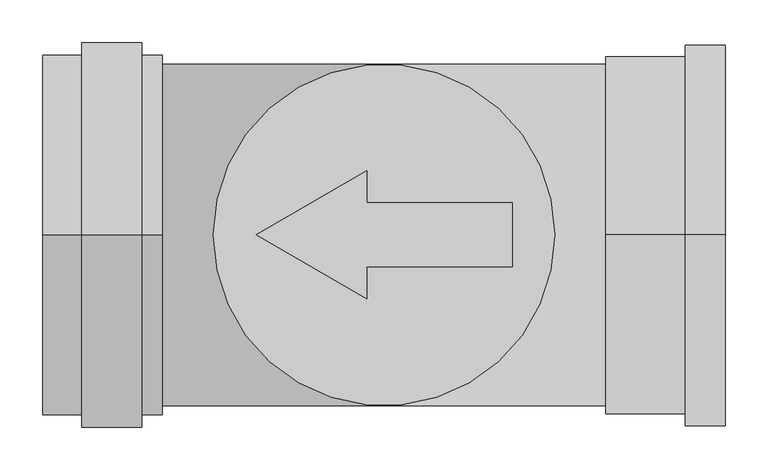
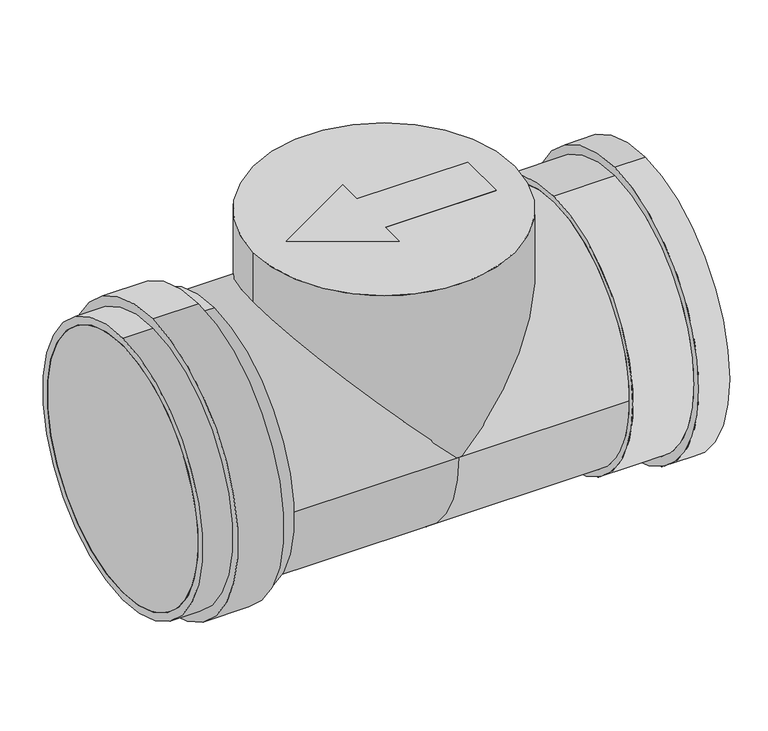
"""IFC4 building model written with IfcOpenShell, lengths in millimetres: pipe fitting geometry, NLRS_52_PIF_UN_SN4 SN8 ontstoppingsstuk terugslagklep 1MV_Dyka : Roodbruin SN4 (Grijze buis)."""

from ifc_helpers import new_model, si_unit, point, frame, origin, origin_with_axes, origin_2d, place, context, project, spatial, polyline, circle_curve, trimmed, segment, composite_curve, outline, extrude, source, transform, mapped, element, save
from ifc_brep_helpers import plane_surface, cylinder_surface, revolved_surface, advanced_brep


def pipe_fitting_edf8ec87(model_context):
    return source(origin(), model_context, "Body", "SolidModel", [
        advanced_brep(
        [(-400.0, 0.0, 211.7), (-400.0, 0.0, -211.7), (-400.0, 0.0, 200.0), (-400.0, 0.0, -200.0), (-260.0, 0.0, 211.7), (-260.0, 0.0, -211.7), (-260.0, 0.0, 200.0), (-260.0, 0.0, -200.0), (-354.0, 0.0, 200.0), (-284.0, 0.0, 200.0), (-284.0, 0.0, -200.0), (-354.0, 0.0, -200.0), (-354.0, 0.0, 211.7), (-354.0, 0.0, -211.7), (-284.0, 0.0, -211.7), (-284.0, 0.0, 211.7), (-354.0, 0.0, 226.5), (-354.0, 0.0, -226.5), (-284.0, 0.0, 226.5), (-284.0, 0.0, -226.5)],
        [
            (0, 1, circle_curve(frame((-400.0, 0.0, 0.0), z_axis=(-1.0, 0.0, 0.0), x_axis=(0.0, 0.0, -1.0)), 211.7)),
            (1, 0, circle_curve(frame((-400.0, 0.0, 0.0), z_axis=(-1.0, 0.0, 0.0), x_axis=(0.0, 0.0, -1.0)), 211.7)),
            (2, 3, circle_curve(frame((-400.0, 0.0, 0.0), z_axis=(1.0, 0.0, 0.0), x_axis=(0.0, 0.0, -1.0)), 200.0)),
            (3, 2, circle_curve(frame((-400.0, 0.0, 0.0), z_axis=(1.0, 0.0, 0.0), x_axis=(0.0, 0.0, -1.0)), 200.0)),
            (4, 5, circle_curve(frame((-260.0, 0.0, 0.0), z_axis=(1.0, 0.0, 0.0), x_axis=(0.0, 0.0, -1.0)), 211.7)),
            (5, 4, circle_curve(frame((-260.0, 0.0, 0.0), z_axis=(1.0, 0.0, 0.0), x_axis=(0.0, 0.0, -1.0)), 211.7)),
            (6, 7, circle_curve(frame((-260.0, 0.0, 0.0), z_axis=(-1.0, 0.0, 0.0), x_axis=(0.0, 0.0, -1.0)), 200.0)),
            (7, 6, circle_curve(frame((-260.0, 0.0, 0.0), z_axis=(-1.0, 0.0, 0.0), x_axis=(0.0, 0.0, -1.0)), 200.0)),
            (2, 8),
            (8, 9),
            (9, 6),
            (7, 10),
            (10, 11),
            (11, 3),
            (0, 12),
            (12, 13, circle_curve(frame((-354.0, 0.0, 0.0), z_axis=(-1.0, 0.0, 0.0), x_axis=(0.0, 0.0, -1.0)), 211.7)),
            (13, 1),
            (5, 14),
            (14, 15, circle_curve(frame((-284.0, 0.0, 0.0), z_axis=(1.0, 0.0, 0.0), x_axis=(0.0, 0.0, -1.0)), 211.7)),
            (15, 4),
            (13, 12, circle_curve(frame((-354.0, 0.0, 0.0), z_axis=(-1.0, 0.0, 0.0), x_axis=(0.0, 0.0, -1.0)), 211.7)),
            (15, 14, circle_curve(frame((-284.0, 0.0, 0.0), z_axis=(1.0, 0.0, 0.0), x_axis=(0.0, 0.0, -1.0)), 211.7)),
            (16, 17, circle_curve(frame((-354.0, 0.0, 0.0), z_axis=(-1.0, 0.0, 0.0), x_axis=(0.0, 0.0, -1.0)), 226.5)),
            (17, 16, circle_curve(frame((-354.0, 0.0, 0.0), z_axis=(-1.0, 0.0, 0.0), x_axis=(0.0, 0.0, -1.0)), 226.5)),
            (16, 18),
            (18, 19, circle_curve(frame((-284.0, 0.0, 0.0), z_axis=(-1.0, 0.0, 0.0), x_axis=(0.0, 0.0, -1.0)), 226.5)),
            (19, 17),
            (19, 18, circle_curve(frame((-284.0, 0.0, 0.0), z_axis=(-1.0, 0.0, 0.0), x_axis=(0.0, 0.0, -1.0)), 226.5)),
        ],
        [
            plane_surface(frame((-400.0, 0.0, -200.0), z_axis=(-1.0, 0.0, 0.0), x_axis=(0.0, 1.0, 0.0))),
            plane_surface(frame((-260.0, 0.0, -200.0), z_axis=(1.0, 0.0, 0.0), x_axis=(0.0, -1.0, 0.0))),
            revolved_surface(polyline([(-260.0, 0.0, -200.0), (-400.0, 0.0, -200.0)]), (-260.0, 0.0, 0.0), (1.0, 0.0, 0.0)),
            cylinder_surface(frame((-400.0, 0.0, 0.0), z_axis=(-1.0, 0.0, 0.0), x_axis=(0.0, 0.0, -1.0)), 211.7),
            plane_surface(frame((-354.0, 0.0, -200.0), z_axis=(-1.0, 0.0, 0.0), x_axis=(0.0, 1.0, 0.0))),
            cylinder_surface(frame((-400.0, 0.0, 0.0), z_axis=(-1.0, 0.0, 0.0), x_axis=(0.0, 0.0, -1.0)), 226.5),
            plane_surface(frame((-284.0, 0.0, -200.0), z_axis=(1.0, 0.0, 0.0), x_axis=(0.0, -1.0, 0.0))),
        ],
        [
            (0, [[1, 2], [3, 4]]),
            (1, [[5, 6], [7, 8]]),
            (2, [[-3, 9, 10, 11, -8, 12, 13, 14]]),
            (2, [[-4, -14, -13, -12, -7, -11, -10, -9]]),
            (3, [[-1, 15, 16, 17]]),
            (3, [[-6, 18, 19, 20]]),
            (3, [[-2, -17, 21, -15]]),
            (3, [[-5, -20, 22, -18]]),
            (4, [[23, 24], [-16, -21]]),
            (5, [[-23, 25, 26, 27]]),
            (5, [[-24, -27, 28, -25]]),
            (6, [[-28, -26], [-19, -22]]),
        ],
    ),
        advanced_brep(
        [(400.0, 0.0, 224.1412698), (400.0, 0.0, -222.8587302), (400.0, 0.0, 200.6412698), (400.0, 0.0, -199.3587302), (353.0, 0.0, 200.6412698), (353.0, 0.0, -199.3587302), (353.0, 0.0, 224.1412698), (353.0, 0.0, -222.8587302), (260.0, 0.0, 210.4412698), (260.0, 0.0, -209.1587302), (260.0, 0.0, 200.6412698), (260.0, 0.0, -199.3587302), (353.0, 0.0, -209.1587302), (353.0, 0.0, 210.4412698)],
        [
            (0, 1, circle_curve(frame((400.0, 0.0, 0.6412698), z_axis=(1.0, 0.0, 0.0), x_axis=(0.0, 0.0, -1.0)), 223.5)),
            (1, 0, circle_curve(frame((400.0, 0.0, 0.6412698), z_axis=(1.0, 0.0, 0.0), x_axis=(0.0, 0.0, -1.0)), 223.5)),
            (2, 3, circle_curve(frame((400.0, 0.0, 0.6412698), z_axis=(-1.0, 0.0, 0.0), x_axis=(0.0, 0.0, -1.0)), 200.0)),
            (3, 2, circle_curve(frame((400.0, 0.0, 0.6412698), z_axis=(-1.0, 0.0, 0.0), x_axis=(0.0, 0.0, -1.0)), 200.0)),
            (2, 4),
            (4, 5, circle_curve(frame((353.0, 0.0, 0.6412698), z_axis=(-1.0, 0.0, 0.0), x_axis=(0.0, 0.0, -1.0)), 200.0)),
            (5, 3),
            (5, 4, circle_curve(frame((353.0, 0.0, 0.6412698), z_axis=(-1.0, 0.0, 0.0), x_axis=(0.0, 0.0, -1.0)), 200.0)),
            (0, 6),
            (6, 7, circle_curve(frame((353.0, 0.0, 0.6412698), z_axis=(1.0, 0.0, 0.0), x_axis=(0.0, 0.0, -1.0)), 223.5)),
            (7, 1),
            (7, 6, circle_curve(frame((353.0, 0.0, 0.6412698), z_axis=(1.0, 0.0, 0.0), x_axis=(0.0, 0.0, -1.0)), 223.5)),
            (8, 9, circle_curve(frame((260.0, 0.0, 0.6412698), z_axis=(-1.0, 0.0, 0.0), x_axis=(0.0, 0.0, -1.0)), 209.8)),
            (9, 8, circle_curve(frame((260.0, 0.0, 0.6412698), z_axis=(-1.0, 0.0, 0.0), x_axis=(0.0, 0.0, -1.0)), 209.8)),
            (10, 11, circle_curve(frame((260.0, 0.0, 0.6412698), z_axis=(1.0, 0.0, 0.0), x_axis=(0.0, 0.0, -1.0)), 200.0)),
            (11, 10, circle_curve(frame((260.0, 0.0, 0.6412698), z_axis=(1.0, 0.0, 0.0), x_axis=(0.0, 0.0, -1.0)), 200.0)),
            (11, 5),
            (4, 10),
            (9, 12),
            (12, 13, circle_curve(frame((353.0, 0.0, 0.6412698), z_axis=(-1.0, 0.0, 0.0), x_axis=(0.0, 0.0, -1.0)), 209.8)),
            (13, 8),
            (13, 12, circle_curve(frame((353.0, 0.0, 0.6412698), z_axis=(-1.0, 0.0, 0.0), x_axis=(0.0, 0.0, -1.0)), 209.8)),
        ],
        [
            plane_surface(frame((400.0, 0.0, -199.3587302), z_axis=(1.0, 0.0, 0.0), x_axis=(0.0, -1.0, 0.0))),
            revolved_surface(polyline([(353.0, 0.0, -199.3587302), (400.0, 0.0, -199.3587302)]), (353.0, 0.0, 0.6412698), (-1.0, 0.0, 0.0)),
            cylinder_surface(frame((260.0, 0.0, 0.6412698), z_axis=(1.0, 0.0, 0.0), x_axis=(0.0, 0.0, -1.0)), 223.5),
            plane_surface(frame((260.0, 0.0, -199.3587302), z_axis=(-1.0, 0.0, 0.0), x_axis=(0.0, 1.0, 0.0))),
            revolved_surface(polyline([(260.0, 0.0, -199.3587302), (353.0, 0.0, -199.3587302)]), (260.0, 0.0, 0.6412698), (-1.0, 0.0, 0.0)),
            cylinder_surface(frame((260.0, 0.0, 0.6412698), z_axis=(1.0, 0.0, 0.0), x_axis=(0.0, 0.0, -1.0)), 209.8),
            plane_surface(frame((353.0, 0.0, -199.3587302), z_axis=(-1.0, 0.0, 0.0), x_axis=(0.0, 1.0, 0.0))),
        ],
        [
            (0, [[1, 2], [3, 4]]),
            (1, [[-3, 5, 6, 7]]),
            (1, [[-4, -7, 8, -5]]),
            (2, [[-1, 9, 10, 11]]),
            (2, [[-2, -11, 12, -9]]),
            (3, [[13, 14], [15, 16]]),
            (4, [[-16, 17, -6, 18]]),
            (4, [[-15, -18, -8, -17]]),
            (5, [[-14, 19, 20, 21]]),
            (5, [[-13, -21, 22, -19]]),
            (6, [[-12, -10], [-20, -22]]),
        ],
    ),
        extrude(outline(composite_curve([segment(trimmed(circle_curve(origin_2d(), 200.0), [point((-200.0, 0.0))], [point((200.0, 0.0))], False, "CARTESIAN"), True, "CONTINUOUS"), segment(trimmed(circle_curve(origin_2d(), 200.0), [point((200.0, 0.0))], [point((-200.0, 0.0))], False, "CARTESIAN"), True, "CONTINUOUS")], self_intersect=False)), origin_with_axes(), (0.0, 0.0, 1.0), 280.0),
        advanced_brep(
        [(260.0, 200.0, 0.0), (260.0, -200.0, 0.0), (0.0, 200.0, 0.0), (0.0, -200.0, 0.0), (-400.0, -200.0, 0.0), (-400.0, 200.0, 0.0)],
        [
            (0, 1, circle_curve(frame((260.0, 0.0, 0.0), z_axis=(1.0, 0.0, 0.0), x_axis=(0.0, -1.0, 0.0)), 200.0)),
            (1, 0, circle_curve(frame((260.0, 0.0, 0.0), z_axis=(1.0, 0.0, 0.0), x_axis=(0.0, -1.0, 0.0)), 200.0)),
            (0, 2),
            (2, 3, circle_curve(frame((0.0, 0.0, 0.0), z_axis=(1.0, 0.0, 0.0), x_axis=(0.0, -1.0, 0.0)), 200.0)),
            (3, 1),
            (3, 2, circle_curve(frame((0.0, 0.0, 0.0), z_axis=(1.0, 0.0, 0.0), x_axis=(0.0, -1.0, 0.0)), 200.0)),
            (4, 5, circle_curve(frame((-400.0, 0.0, 0.0), z_axis=(-1.0, 0.0, 0.0), x_axis=(0.0, 1.0, 0.0)), 200.0)),
            (5, 4, circle_curve(frame((-400.0, 0.0, 0.0), z_axis=(-1.0, 0.0, 0.0), x_axis=(0.0, 1.0, 0.0)), 200.0)),
            (4, 3),
            (2, 5),
        ],
        [
            plane_surface(frame((260.0, -200.0, 0.0), z_axis=(1.0, 0.0, 0.0), x_axis=(0.0, 0.0, -1.0))),
            cylinder_surface(frame((0.0, 0.0, 0.0), z_axis=(1.0, 0.0, 0.0), x_axis=(0.0, -1.0, 0.0)), 200.0),
            plane_surface(frame((-400.0, 200.0, 0.0), z_axis=(-1.0, 0.0, 0.0), x_axis=(0.0, 0.0, -1.0))),
            cylinder_surface(frame((0.0, 0.0, 0.0), z_axis=(-1.0, 0.0, 0.0), x_axis=(0.0, 1.0, 0.0)), 200.0),
        ],
        [
            (0, [[1, 2]]),
            (1, [[-1, 3, 4, 5]]),
            (1, [[-2, -5, 6, -3]]),
            (2, [[7, 8]]),
            (3, [[-7, 9, -4, 10]]),
            (3, [[-8, -10, -6, -9]]),
        ],
    ),
        extrude(outline(polyline([(150.0, -37.5), (-20.0961894, -37.5), (-20.0961894, -75.0), (-150.0, 0.0), (-20.0961894, 75.0), (-20.0961894, 37.5), (150.0, 37.5), (150.0, -37.5)])), frame((0.0, 0.0, 280.0), z_axis=(0.0, 0.0, 1.0), x_axis=(1.0, 0.0, 0.0)), (0.0, 0.0, 1.0), 1.0),
    ])


if __name__ == "__main__":
    model = new_model("IFC4")
    model_context = context("Model", 3, world=origin())
    ifc_project = project(units=[si_unit("LENGTHUNIT", "METRE", prefix="MILLI")], contexts=[model_context])
    site = spatial("IfcSite", under=ifc_project)
    building = spatial("IfcBuilding", under=site)
    placement = place(None, origin())
    pipe_fitting_shape = pipe_fitting_edf8ec87(model_context)
    element("IfcPipeFitting", 1, ObjectType="NLRS_52_PIF_UN_SN4 SN8 ontstoppingsstuk terugslagklep 1MV_Dyka : Roodbruin SN4 (Grijze buis)", at=placement, inside=building, context=model_context, shape_type="MappedRepresentation", body=[
        mapped(pipe_fitting_shape, transform((0.0, 0.0, 0.0), x_axis=(1.0, 0.0, 0.0), y_axis=(0.0, 1.0, 0.0), z_axis=(0.0, 0.0, 1.0))),
    ])
    save(model, "model.ifc")
